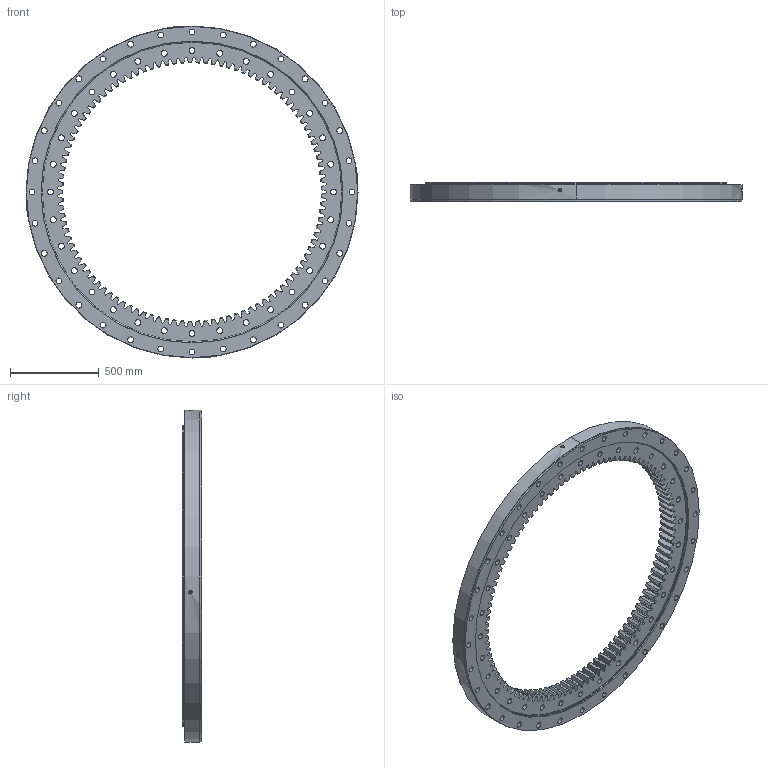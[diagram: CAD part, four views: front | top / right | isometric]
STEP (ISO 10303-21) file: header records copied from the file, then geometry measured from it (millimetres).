
FILE_DESCRIPTION (( 'STEP AP214' ), '1' );
FILE_NAME ('SM2136-1-1872AA.STEP', '2022-11-24T07:39:14', ( '' ), ( '' ), 'SwSTEP 2.0', 'SolidWorks 2020', '' );
FILE_SCHEMA (( 'AUTOMOTIVE_DESIGN' ));
Length unit declared in the file: millimetre
Products named in the file (1): SM2136-1-1872AA
Bounding box: 1872 x 108 x 1872 mm (x, y, z)
Volume: 91131959.7 mm3; surface area: 5483267.5 mm2
Topology: 4 solids, 4 shells, 940 faces, 2749 edges, 1830 vertices
Faces by surface type: plane 441, cylinder 279, cone 220
Entity records: 32644 total; most frequent: CARTESIAN_POINT 7670, ORIENTED_EDGE 5498, DIRECTION 4850, EDGE_CURVE 2749, VERTEX_POINT 1830, AXIS2_PLACEMENT_3D 1703, VECTOR 1444, LINE 1444
